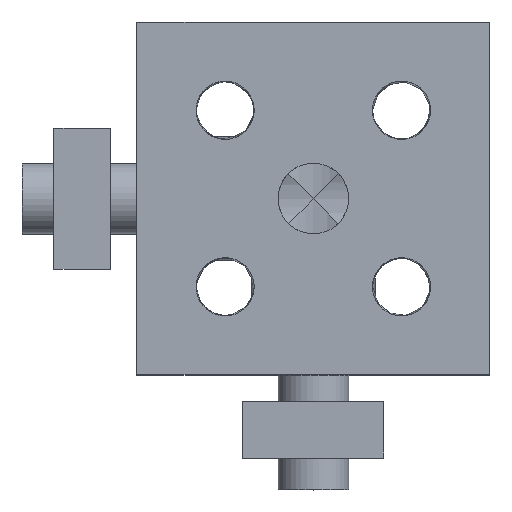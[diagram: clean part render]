
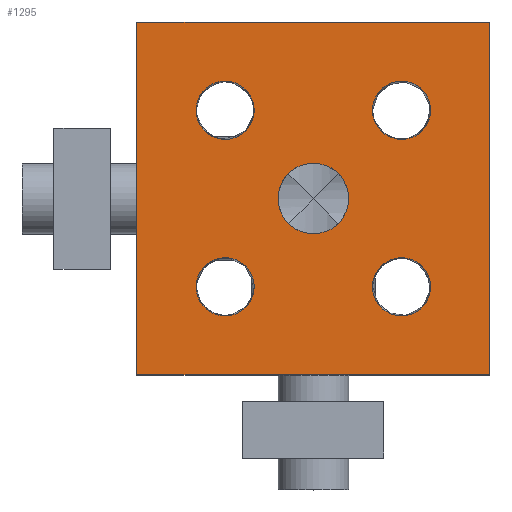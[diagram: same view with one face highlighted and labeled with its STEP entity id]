
A CAD part, top view. The second image highlights one B-rep face of the part: STEP entity #1295.
In plain terms, the highlighted planar face has unit normal (0, 0, 1).
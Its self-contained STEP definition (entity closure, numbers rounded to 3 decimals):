
#260=CARTESIAN_POINT('',(16.651,4.998,7.5));
#261=VERTEX_POINT('',#260);
#262=CARTESIAN_POINT('',(15.001,4.998,7.5));
#263=DIRECTION('',(0.0,0.0,-1.0));
#264=DIRECTION('',(1.0,0.0,0.0));
#265=AXIS2_PLACEMENT_3D('',#262,#263,#264);
#266=CIRCLE('',#265,1.65);
#267=EDGE_CURVE('',#261,#261,#266,.T.);
#425=CARTESIAN_POINT('',(6.651,4.998,7.5));
#426=VERTEX_POINT('',#425);
#427=CARTESIAN_POINT('',(5.001,4.998,7.5));
#428=DIRECTION('',(0.0,0.0,-1.0));
#429=DIRECTION('',(1.0,0.0,0.0));
#430=AXIS2_PLACEMENT_3D('',#427,#428,#429);
#431=CIRCLE('',#430,1.65);
#432=EDGE_CURVE('',#426,#426,#431,.T.);
#590=CARTESIAN_POINT('',(16.651,14.998,7.5));
#591=VERTEX_POINT('',#590);
#592=CARTESIAN_POINT('',(15.001,14.998,7.5));
#593=DIRECTION('',(0.0,0.0,-1.0));
#594=DIRECTION('',(1.0,0.0,0.0));
#595=AXIS2_PLACEMENT_3D('',#592,#593,#594);
#596=CIRCLE('',#595,1.65);
#597=EDGE_CURVE('',#591,#591,#596,.T.);
#755=CARTESIAN_POINT('',(6.651,14.998,7.5));
#756=VERTEX_POINT('',#755);
#757=CARTESIAN_POINT('',(5.001,14.998,7.5));
#758=DIRECTION('',(0.0,0.0,-1.0));
#759=DIRECTION('',(1.0,0.0,0.0));
#760=AXIS2_PLACEMENT_3D('',#757,#758,#759);
#761=CIRCLE('',#760,1.65);
#762=EDGE_CURVE('',#756,#756,#761,.T.);
#1065=CARTESIAN_POINT('',(12.,10.0,7.5));
#1066=VERTEX_POINT('',#1065);
#1067=CARTESIAN_POINT('',(10.0,10.0,7.5));
#1068=DIRECTION('',(0.0,0.0,-1.0));
#1069=DIRECTION('',(1.0,0.0,0.0));
#1070=AXIS2_PLACEMENT_3D('',#1067,#1068,#1069);
#1071=CIRCLE('',#1070,2.0);
#1072=EDGE_CURVE('',#1066,#1066,#1071,.T.);
#1166=CARTESIAN_POINT('',(0.0,0.0,7.5));
#1167=VERTEX_POINT('',#1166);
#1168=CARTESIAN_POINT('',(0.0,20.0,7.5));
#1169=VERTEX_POINT('',#1168);
#1170=CARTESIAN_POINT('',(0.0,0.0,7.5));
#1171=DIRECTION('',(0.0,1.0,0.0));
#1172=VECTOR('',#1171,20.0);
#1173=LINE('',#1170,#1172);
#1174=EDGE_CURVE('',#1167,#1169,#1173,.T.);
#1200=CARTESIAN_POINT('',(20.0,20.0,7.5));
#1201=VERTEX_POINT('',#1200);
#1202=CARTESIAN_POINT('',(0.0,20.0,7.5));
#1203=DIRECTION('',(1.0,0.0,0.0));
#1204=VECTOR('',#1203,20.0);
#1205=LINE('',#1202,#1204);
#1206=EDGE_CURVE('',#1169,#1201,#1205,.T.);
#1227=CARTESIAN_POINT('',(20.0,0.0,7.5));
#1228=VERTEX_POINT('',#1227);
#1229=CARTESIAN_POINT('',(20.0,20.0,7.5));
#1230=DIRECTION('',(0.0,-1.0,0.0));
#1231=VECTOR('',#1230,20.0);
#1232=LINE('',#1229,#1231);
#1233=EDGE_CURVE('',#1201,#1228,#1232,.T.);
#1254=CARTESIAN_POINT('',(20.0,0.0,7.5));
#1255=DIRECTION('',(-1.0,0.0,0.0));
#1256=VECTOR('',#1255,20.0);
#1257=LINE('',#1254,#1256);
#1258=EDGE_CURVE('',#1228,#1167,#1257,.T.);
#1269=CARTESIAN_POINT('',(10.0,10.0,7.5));
#1270=DIRECTION('',(0.0,0.0,1.0));
#1271=DIRECTION('',(1.0,0.0,0.0));
#1272=AXIS2_PLACEMENT_3D('',#1269,#1270,#1271);
#1273=PLANE('',#1272);
#1274=ORIENTED_EDGE('',*,*,#1174,.F.);
#1275=ORIENTED_EDGE('',*,*,#1258,.F.);
#1276=ORIENTED_EDGE('',*,*,#1233,.F.);
#1277=ORIENTED_EDGE('',*,*,#1206,.F.);
#1278=EDGE_LOOP('',(#1274,#1275,#1276,#1277));
#1279=FACE_OUTER_BOUND('',#1278,.T.);
#1280=ORIENTED_EDGE('',*,*,#267,.T.);
#1281=EDGE_LOOP('',(#1280));
#1282=FACE_BOUND('',#1281,.T.);
#1283=ORIENTED_EDGE('',*,*,#432,.T.);
#1284=EDGE_LOOP('',(#1283));
#1285=FACE_BOUND('',#1284,.T.);
#1286=ORIENTED_EDGE('',*,*,#597,.T.);
#1287=EDGE_LOOP('',(#1286));
#1288=FACE_BOUND('',#1287,.T.);
#1289=ORIENTED_EDGE('',*,*,#762,.T.);
#1290=EDGE_LOOP('',(#1289));
#1291=FACE_BOUND('',#1290,.T.);
#1292=ORIENTED_EDGE('',*,*,#1072,.T.);
#1293=EDGE_LOOP('',(#1292));
#1294=FACE_BOUND('',#1293,.T.);
#1295=ADVANCED_FACE('',(#1279,#1282,#1285,#1288,#1291,#1294),#1273,.T.);
